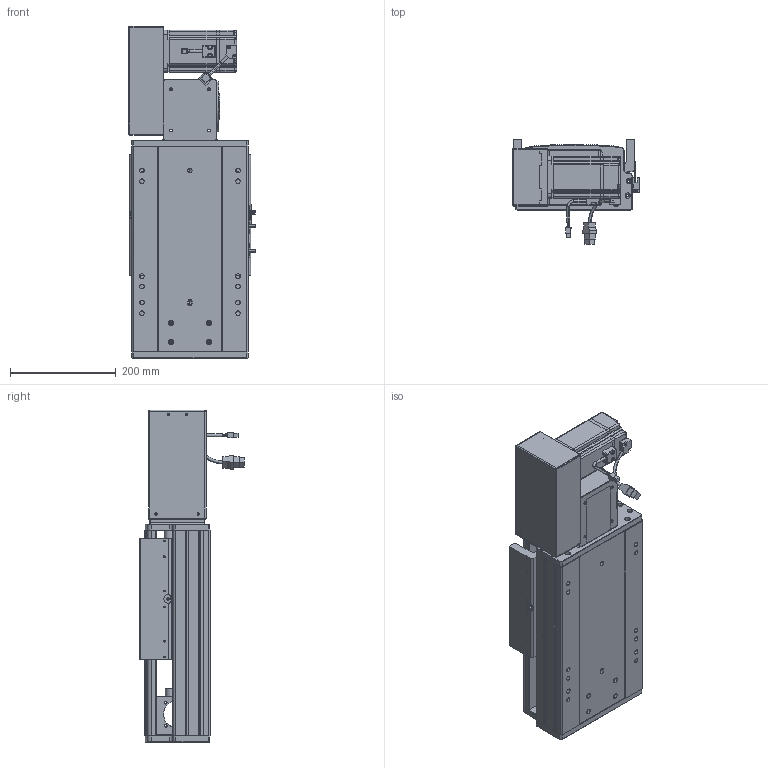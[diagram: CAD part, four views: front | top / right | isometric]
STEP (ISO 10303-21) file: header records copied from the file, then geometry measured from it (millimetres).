
FILE_DESCRIPTION (( 'STEP AP203' ), '1' );
FILE_NAME ('RY220-T-300-LK.SLDASM_50.step', '2022-07-25T08:12:44', ( '' ), ( '' ), 'SwSTEP 2.0', 'SolidWorks 2016', '' );
FILE_SCHEMA (( 'CONFIG_CONTROL_DESIGN' ));
Length unit declared in the file: millimetre
Products named in the file (14): RY220-T-湍謫欶(鍼踢); RY220翋肮祭謫裔啣; 怢湛750W_ECMA-CX0807ES; RY220-T菁釱-300_50; 110A-T-肮祭謫釱傷裔; RY220圉猾敕々湍臏賑輸; RY220翋肮祭謫釱; 覜茼ん672; RY220-T-300-LK.SLDASM_50; RY220-俋离672覜茼んえ; RY220-T-300-奻裔啣_50; RY220-同步轮副支撑座6304×2; RY220-T-蛌殏萇儂假蚾啣(750W); 滅袉蝶18-15
Assembly tree (18 placements, depth 2):
  RY220-T-300-LK.SLDASM_50
    RY220-T菁釱-300_50
    RY220翋肮祭謫釱
    覜茼ん672  x3
    RY220圉猾敕々湍臏賑輸
    RY220-T-300-奻裔啣_50
    RY220-俋离672覜茼んえ
    滅袉蝶18-15  x3
    RY220翋肮祭謫裔啣  x2
    110A-T-肮祭謫釱傷裔
    怢湛750W_ECMA-CX0807ES
    RY220-T-湍謫欶(鍼踢)
    RY220-T-蛌殏萇儂假蚾啣(750W)
    RY220-同步轮副支撑座6304×2
Bounding box: 239.7 x 198.77 x 629 mm (x, y, z)
Volume: 6108973 mm3; surface area: 1577060.2 mm2
Topology: 19 solids, 19 shells, 2440 faces, 6723 edges, 4302 vertices
Faces by surface type: cylinder 1104, plane 1069, cone 185, bspline 56, sphere 16, torus 10
Entity records: 81107 total; most frequent: CARTESIAN_POINT 23325, ORIENTED_EDGE 12058, DIRECTION 11228, EDGE_CURVE 6029, VERTEX_POINT 3926, AXIS2_PLACEMENT_3D 3914, VECTOR 3400, LINE 3400
